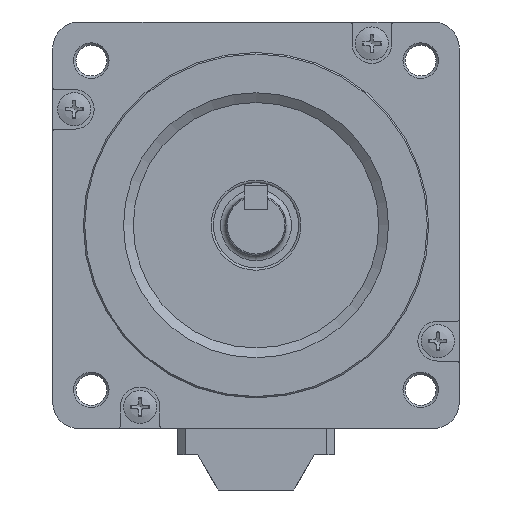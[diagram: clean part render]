
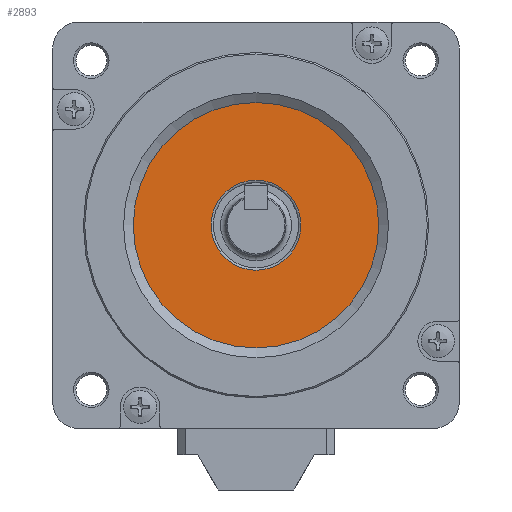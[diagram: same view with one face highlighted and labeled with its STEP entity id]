
A CAD part, front view. The second image highlights one B-rep face of the part: STEP entity #2893.
In plain terms, the highlighted planar face has unit normal (0, -1, 0).
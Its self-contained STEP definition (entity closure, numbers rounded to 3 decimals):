
#60=CARTESIAN_POINT('',(25.935,-17.1,0.));
#61=VERTEX_POINT('',#60);
#68=CARTESIAN_POINT('',(0.,-17.1,0.));
#69=DIRECTION('',(1.,0.,0.));
#70=DIRECTION('',(0.,-1.,0.));
#71=AXIS2_PLACEMENT_3D('',#68,#70,#69);
#72=CIRCLE('',#71,25.935);
#73=EDGE_CURVE('',#61,#61,#72,.T.);
#2874=CARTESIAN_POINT('',(-7.503,-17.1,0.));
#2875=DIRECTION('',(1.,0.,0.));
#2876=DIRECTION('',(0.,-1.,0.));
#2877=AXIS2_PLACEMENT_3D('',#2874,#2876,#2875);
#2878=PLANE('',#2877);
#2879=ORIENTED_EDGE('',*,*,#73,.T.);
#2880=EDGE_LOOP('',(#2879));
#2881=FACE_OUTER_BOUND('',#2880,.T.);
#2882=CARTESIAN_POINT('',(9.5,-17.1,0.));
#2883=VERTEX_POINT('',#2882);
#2884=CARTESIAN_POINT('',(0.,-17.1,0.));
#2885=DIRECTION('',(1.,0.,0.));
#2886=DIRECTION('',(0.,-1.,0.));
#2887=AXIS2_PLACEMENT_3D('',#2884,#2886,#2885);
#2888=CIRCLE('',#2887,9.5);
#2889=EDGE_CURVE('',#2883,#2883,#2888,.T.);
#2890=ORIENTED_EDGE('E570',*,*,#2889,.F.);
#2891=EDGE_LOOP('',(#2890));
#2892=FACE_BOUND('',#2891,.T.);
#2893=ADVANCED_FACE('F90',(#2881,#2892),#2878,.T.);
